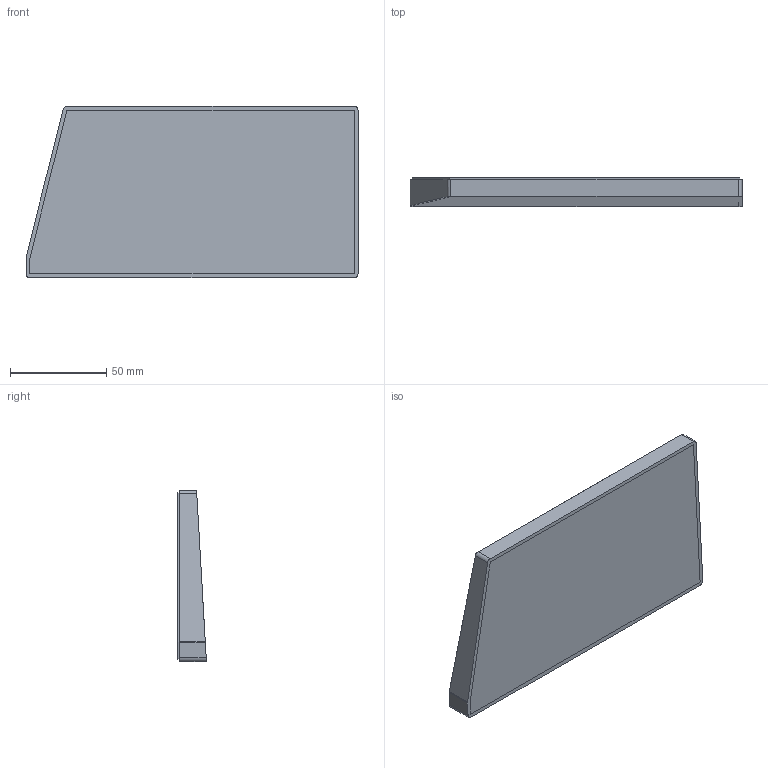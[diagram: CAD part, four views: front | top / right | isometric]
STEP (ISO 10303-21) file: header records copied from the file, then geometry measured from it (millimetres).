
FILE_DESCRIPTION(/* description */ (''),/* implementation_level */ '2;1');
FILE_NAME(/* name */ 'cradoll_keyboard_right_case_bottom v22.step',/* time_stamp */ '2025-06-19T10:19:53+09:00',/* author */ (''),/* organization */ (''),/* preprocessor_version */ 'ST-DEVELOPER v20.1',/* originating_system */ 'Autodesk Translation Framework v14.10.0.0',/* authorisation */ '');
FILE_SCHEMA (('AUTOMOTIVE_DESIGN { 1 0 10303 214 3 1 1 }'));
Length unit declared in the file: millimetre
Products named in the file (1): cradoll_keyboard_right_case_bottom
Bounding box: 172.75 x 15 x 89 mm (x, y, z)
Volume: 43218.5 mm3; surface area: 43011.1 mm2
Topology: 2 solids, 2 shells, 112 faces, 280 edges, 182 vertices
Faces by surface type: plane 58, cylinder 36, cone 9, bspline 9
Full cylindrical faces by diameter (mm): 2.4 x9, 5 x3
Entity records: 5305 total; most frequent: CARTESIAN_POINT 2542, DIRECTION 573, ORIENTED_EDGE 560, EDGE_CURVE 280, AXIS2_PLACEMENT_3D 214, VERTEX_POINT 182, LINE 145, VECTOR 145
